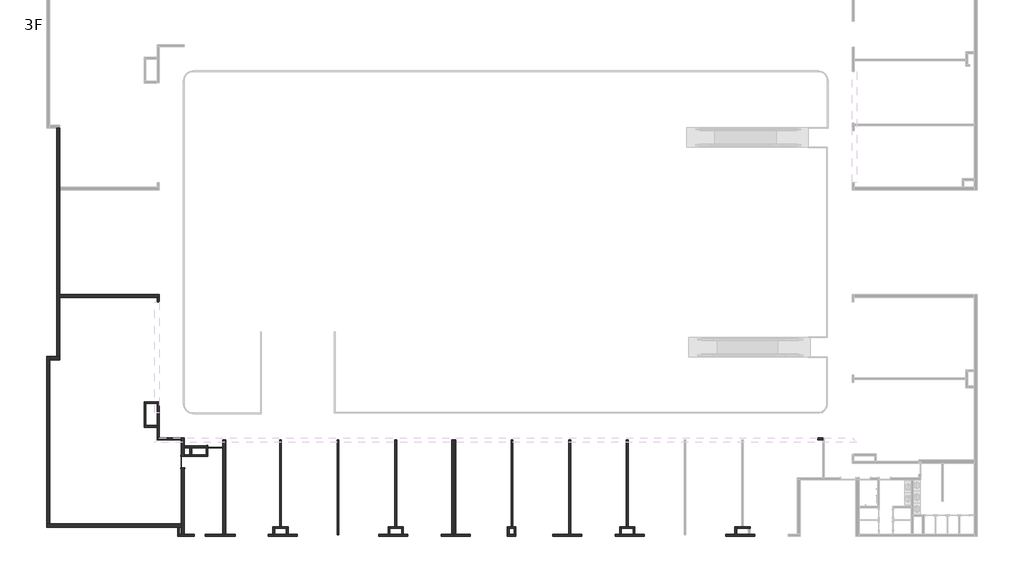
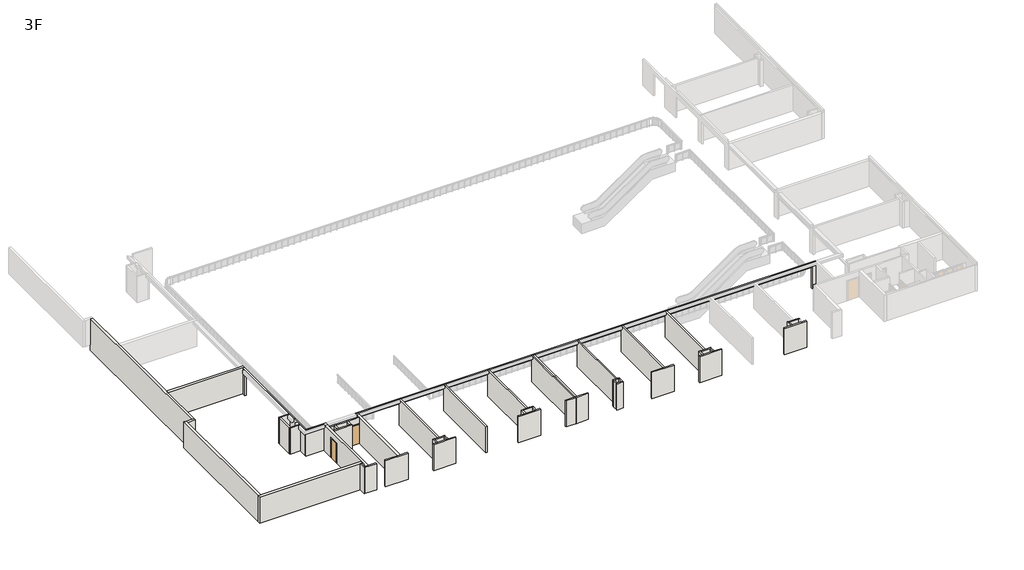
# One storey, part 1 of 4: 50 walls, 2 doors.
"""IFC4 building model written with IfcOpenShell, lengths in millimetres."""

from ifc_helpers import new_model, si_unit, frame, origin, place, context, project, spatial, polyline, outline, extrude, faceted_brep, transform, mapped, element, save
from components import m_single_flush_d_1200x2150_085a39eb, m_single_flush_d_900x2150_0b8f236d

model = new_model("IFC4")

# Units and contexts
model_context = context("Model", 3, world=origin())
ifc_project = project(units=[si_unit("LENGTHUNIT", "METRE", prefix="MILLI")], contexts=[model_context])

# Site, building, storey
site = spatial("IfcSite", under=ifc_project)
building = spatial("IfcBuilding", under=site)
storey = spatial("IfcBuildingStorey", under=building, Name="3F", Elevation=11850.0)

# Doors
placement = place(None, origin())
m_single_flush_d_1200x2150_shape = m_single_flush_d_1200x2150_085a39eb(model_context)
element("IfcDoor", 1, ObjectType="M_Single-Flush : D-1200x2150", at=placement, inside=storey, context=model_context, shape_type="MappedRepresentation", body=[
    mapped(m_single_flush_d_1200x2150_shape, transform((-18037.5865899, -18671.6148653, 11850.0), x_axis=(1.0, 0.0, 0.0), y_axis=(0.0, 1.0, 0.0), z_axis=(0.0, 0.0, 1.0))),
])
m_single_flush_d_900x2150_shape = m_single_flush_d_900x2150_0b8f236d(model_context)
element("IfcDoor", 2, ObjectType="M_Single-Flush : D-900x2150", at=placement, inside=storey, context=model_context, shape_type="MappedRepresentation", body=[
    mapped(m_single_flush_d_900x2150_shape, transform((-20654.0865899, -19892.6148653, 11850.0), x_axis=(0.0, 1.0, 0.0), y_axis=(-1.0, 0.0, 0.0), z_axis=(0.0, 0.0, 1.0))),
])

# Walls
element("IfcWall", 3, ObjectType="wall-115", at=placement, inside=storey, context=model_context, shape_type="Brep", body=[
    faceted_brep([(-22667.5865898, -15057.6310718, 11850.0), (-23747.5865898, -15057.6310718, 11850.0), (-23747.5865898, -15057.6310718, 14725.0), (-22667.5865898, -15057.6310718, 14725.0), (-23747.5865898, -15199.6310718, 11850.0), (-23605.5865898, -15199.6310718, 11850.0), (-22667.5865898, -15199.6310718, 11850.0), (-22667.5865898, -15199.6310718, 14725.0), (-23605.5865898, -15199.6310718, 14725.0), (-23747.5865898, -15199.6310718, 14725.0), (-22667.5865898, -15072.6310718, 11850.0)], [[[0, 1, 2, 3]], [[4, 5, 6, 7, 8, 9]], [[1, 0, 10, 6, 5, 4]], [[1, 4, 9, 2]], [[6, 10, 0, 3, 7]], [[3, 2, 9, 8, 7]]]),
])
element("IfcWall", 4, ObjectType="wall-115", at=placement, inside=storey, context=model_context, shape_type="SweptSolid", body=[
    extrude(outline(polyline([(-23747.5865898, -16972.6148653), (-23747.5865898, -15199.6310718), (-23605.5865898, -15199.6310718), (-23605.5865898, -16972.6148653), (-23747.5865898, -16972.6148653)])), frame((0.0, 0.0, 11850.0), z_axis=(0.0, 0.0, 1.0), x_axis=(1.0, 0.0, 0.0)), (0.0, 0.0, 1.0), 2875.0),
])
element("IfcWall", 5, ObjectType="wall-115", at=placement, inside=storey, context=model_context, shape_type="Brep", body=[
    faceted_brep([(-22667.5865898, -16972.6148653, 11850.0), (-23605.5865898, -16972.6148653, 11850.0), (-23747.5865898, -16972.6148653, 11850.0), (-23747.5865898, -16972.6148653, 14725.0), (-23605.5865898, -16972.6148653, 14725.0), (-22667.5865898, -16972.6148653, 14725.0), (-23747.5865898, -17114.6148653, 11850.0), (-22667.5865898, -17114.6148653, 11850.0), (-22667.5865898, -17114.6148653, 14725.0), (-23747.5865898, -17114.6148653, 14725.0)], [[[0, 1, 2, 3, 4, 5]], [[6, 7, 8, 9]], [[2, 1, 0, 7, 6]], [[2, 6, 9, 3]], [[7, 0, 5, 8]], [[5, 4, 3, 9, 8]]]),
])
element("IfcWall", 6, ObjectType="wall-115", at=placement, inside=storey, context=model_context, shape_type="Brep", body=[
    faceted_brep([(-22667.5865898, -18102.6148653, 11850.0), (-20782.5865899, -18102.6148653, 11850.0), (-20782.5865899, -18102.6148653, 14725.0), (-22667.5865898, -18102.6148653, 14725.0), (-20782.5865899, -17960.6148653, 11850.0), (-22525.5865898, -17960.6148653, 11850.0), (-22667.5865898, -17960.6148653, 11850.0), (-22667.5865898, -17960.6148653, 14725.0), (-22525.5865899, -17960.6148653, 14725.0), (-20782.5865899, -17960.6148653, 14725.0)], [[[0, 1, 2, 3]], [[4, 5, 6, 7, 8, 9]], [[1, 0, 6, 5, 4]], [[6, 0, 3, 7]], [[1, 4, 9, 2]], [[3, 2, 9, 8, 7]]]),
])
element("IfcWall", 7, ObjectType="wall-115", at=placement, inside=storey, context=model_context, shape_type="Brep", body=[
    faceted_brep([(-20909.0865899, -25834.6148653, 11850.0), (-19737.5865899, -25834.6148653, 11850.0), (-19737.5865899, -25834.6148653, 14725.0), (-20909.0865899, -25834.6148653, 14725.0), (-19737.5865899, -25692.6148653, 11850.0), (-20525.5865899, -25692.6148653, 11850.0), (-20782.5865899, -25692.6148653, 11850.0), (-20909.0865899, -25692.6148653, 11850.0), (-20909.0865899, -25692.6148653, 14725.0), (-20782.5865899, -25692.6148653, 14725.0), (-20525.5865899, -25692.6148653, 14725.0), (-19737.5865899, -25692.6148653, 14725.0)], [[[0, 1, 2, 3]], [[4, 5, 6, 7, 8, 9, 10, 11]], [[1, 0, 7, 6, 5, 4]], [[1, 4, 11, 2]], [[7, 0, 3, 8]], [[3, 2, 11, 10, 9, 8]]]),
])
element("IfcWall", 8, ObjectType="wall-115", at=placement, inside=storey, context=model_context, shape_type="Brep", body=[
    faceted_brep([(-4937.5865899, -25834.6148653, 11850.0), (-2617.5865899, -25834.6148653, 11850.0), (-2617.5865899, -25834.6148653, 14725.0), (-4937.5865899, -25834.6148653, 14725.0), (-2617.5865899, -25692.6148653, 11850.0), (-2977.5865899, -25692.6148653, 11850.0), (-3119.5865899, -25692.6148653, 11850.0), (-4065.5865899, -25692.6148653, 11850.0), (-4207.5865899, -25692.6148653, 11850.0), (-4937.5865899, -25692.6148653, 11850.0), (-4937.5865899, -25692.6148653, 14725.0), (-4207.5865899, -25692.6148653, 14725.0), (-4065.5865899, -25692.6148653, 14725.0), (-3119.5865899, -25692.6148653, 14725.0), (-2977.5865899, -25692.6148653, 14725.0), (-2617.5865899, -25692.6148653, 14725.0)], [[[0, 1, 2, 3]], [[4, 5, 6, 7, 8, 9, 10, 11, 12, 13, 14, 15]], [[1, 0, 9, 8, 7, 6, 5, 4]], [[1, 4, 15, 2]], [[9, 0, 3, 10]], [[3, 2, 15, 14, 13, 12, 11, 10]]]),
])
element("IfcWall", 9, ObjectType="wall-115", at=placement, inside=storey, context=model_context, shape_type="Brep", body=[
    faceted_brep([(13967.4134101, -25834.6148653, 11850.0), (16287.4134101, -25834.6148653, 11850.0), (16287.4134101, -25834.6148653, 14725.0), (13967.4134101, -25834.6148653, 14725.0), (16287.4134101, -25692.6148653, 11850.0), (15557.4134101, -25692.6148653, 11850.0), (15415.4134101, -25692.6148653, 11850.0), (14469.4134101, -25692.6148653, 11850.0), (14327.4134101, -25692.6148653, 11850.0), (13967.4134101, -25692.6148653, 11850.0), (13967.4134101, -25692.6148653, 14725.0), (14327.4134101, -25692.6148653, 14725.0), (14469.4134101, -25692.6148653, 14725.0), (15415.4134101, -25692.6148653, 14725.0), (15557.4134101, -25692.6148653, 14725.0), (16287.4134101, -25692.6148653, 14725.0)], [[[0, 1, 2, 3]], [[4, 5, 6, 7, 8, 9, 10, 11, 12, 13, 14, 15]], [[1, 0, 9, 8, 7, 6, 5, 4]], [[1, 4, 15, 2]], [[9, 0, 3, 10]], [[3, 2, 15, 14, 13, 12, 11, 10]]]),
])
element("IfcWall", 10, ObjectType="wall-115", at=placement, inside=storey, context=model_context, shape_type="Brep", body=[
    faceted_brep([(22827.4134101, -25834.6148653, 11850.0), (25147.4134101, -25834.6148653, 11850.0), (25147.4134101, -25834.6148653, 14725.0), (22827.4134101, -25834.6148653, 14725.0), (25147.4134101, -25692.6148653, 11850.0), (24787.4134101, -25692.6148653, 11850.0), (24645.4134101, -25692.6148653, 11850.0), (23699.4134101, -25692.6148653, 11850.0), (23557.4134101, -25692.6148653, 11850.0), (22827.4134101, -25692.6148653, 11850.0), (22827.4134101, -25692.6148653, 14725.0), (23557.4134101, -25692.6148653, 14725.0), (23699.4134101, -25692.6148653, 14725.0), (24645.4134101, -25692.6148653, 14725.0), (24787.4134101, -25692.6148653, 14725.0), (25147.4134101, -25692.6148653, 14725.0)], [[[0, 1, 2, 3]], [[4, 5, 6, 7, 8, 9, 10, 11, 12, 13, 14, 15]], [[1, 0, 9, 8, 7, 6, 5, 4]], [[1, 4, 15, 2]], [[9, 0, 3, 10]], [[3, 2, 15, 14, 13, 12, 11, 10]]]),
])
element("IfcWall", 11, ObjectType="wall-115", at=placement, inside=storey, context=model_context, shape_type="Brep", body=[
    faceted_brep([(-13797.5865899, -25834.6148653, 11850.0), (-11477.5865899, -25834.6148653, 11850.0), (-11477.5865899, -25834.6148653, 14725.0), (-13797.5865899, -25834.6148653, 14725.0), (-11477.5865899, -25692.6148653, 11850.0), (-12207.5865899, -25692.6148653, 11850.0), (-12349.5865899, -25692.6148653, 11850.0), (-13295.5865899, -25692.6148653, 11850.0), (-13437.5865899, -25692.6148653, 11850.0), (-13797.5865899, -25692.6148653, 11850.0), (-13797.5865899, -25692.6148653, 14725.0), (-13437.5865899, -25692.6148653, 14725.0), (-13295.5865899, -25692.6148653, 14725.0), (-12349.5865899, -25692.6148653, 14725.0), (-12207.5865899, -25692.6148653, 14725.0), (-11477.5865899, -25692.6148653, 14725.0)], [[[0, 1, 2, 3]], [[4, 5, 6, 7, 8, 9, 10, 11, 12, 13, 14, 15]], [[1, 0, 9, 8, 7, 6, 5, 4]], [[1, 4, 15, 2]], [[9, 0, 3, 10]], [[3, 2, 15, 14, 13, 12, 11, 10]]]),
])
element("IfcWall", 12, ObjectType="wall-115", at=placement, inside=storey, context=model_context, shape_type="Brep", body=[
    faceted_brep([(47.4134101, -25834.6148653, 11850.0), (1034.4134101, -25834.6148653, 11850.0), (1034.4134101, -25834.6148653, 14725.0), (47.4134101, -25834.6148653, 14725.0), (1034.4134101, -25692.6148653, 11850.0), (892.4134101, -25692.6148653, 11850.0), (47.4134101, -25692.6148653, 11850.0), (47.4134101, -25692.6148653, 14725.0), (892.4134101, -25692.6148653, 14725.0), (1034.4134101, -25692.6148653, 14725.0)], [[[0, 1, 2, 3]], [[4, 5, 6, 7, 8, 9]], [[1, 0, 6, 5, 4]], [[6, 0, 3, 7]], [[1, 4, 9, 2]], [[3, 2, 9, 8, 7]]]),
])
element("IfcWall", 13, ObjectType="wall-115", at=placement, inside=storey, context=model_context, shape_type="Brep", body=[
    faceted_brep([(2367.4134101, -25692.6148653, 11850.0), (1224.4134101, -25692.6148653, 11850.0), (1082.4134101, -25692.6148653, 11850.0), (1082.4134101, -25692.6148653, 14725.0), (1224.4134101, -25692.6148653, 14725.0), (2367.4134101, -25692.6148653, 14725.0), (1082.4134101, -25834.6148653, 11850.0), (2367.4134101, -25834.6148653, 11850.0), (2367.4134101, -25834.6148653, 14725.0), (1082.4134101, -25834.6148653, 14725.0)], [[[0, 1, 2, 3, 4, 5]], [[6, 7, 8, 9]], [[2, 1, 0, 7, 6]], [[7, 0, 5, 8]], [[2, 6, 9, 3]], [[5, 4, 3, 9, 8]]]),
])
element("IfcWall", 14, ObjectType="wall-115", at=placement, inside=storey, context=model_context, shape_type="Brep", body=[
    faceted_brep([(11302.4134101, -25692.6148653, 11850.0), (10396.9134101, -25692.6148653, 11850.0), (10254.9134101, -25692.6148653, 11850.0), (8982.4134101, -25692.6148653, 11850.0), (8982.4134101, -25692.6148653, 14725.0), (10254.9134101, -25692.6148653, 14725.0), (10396.9134101, -25692.6148653, 14725.0), (11302.4134101, -25692.6148653, 14725.0), (8982.4134101, -25834.6148653, 11850.0), (11302.4134101, -25834.6148653, 11850.0), (11302.4134101, -25834.6148653, 14725.0), (8982.4134101, -25834.6148653, 14725.0)], [[[0, 1, 2, 3, 4, 5, 6, 7]], [[8, 9, 10, 11]], [[3, 2, 1, 0, 9, 8]], [[3, 8, 11, 4]], [[9, 0, 7, 10]], [[7, 6, 5, 4, 11, 10]]]),
])
element("IfcWall", 15, ObjectType="wall-115", at=placement, inside=storey, context=model_context, shape_type="Brep", body=[
    faceted_brep([(-18837.5865899, -25834.6148653, 11850.0), (-16462.5865899, -25834.6148653, 11850.0), (-16462.5865899, -25834.6148653, 14725.0), (-18837.5865899, -25834.6148653, 14725.0), (-16462.5865899, -25692.6148653, 11850.0), (-17192.5865899, -25692.6148653, 11850.0), (-17449.5865899, -25692.6148653, 11850.0), (-18837.5865899, -25692.6148653, 11850.0), (-18837.5865899, -25692.6148653, 14725.0), (-17449.5865899, -25692.6148653, 14725.0), (-17192.5865899, -25692.6148653, 14725.0), (-16462.5865899, -25692.6148653, 14725.0)], [[[0, 1, 2, 3]], [[4, 5, 6, 7, 8, 9, 10, 11]], [[1, 0, 7, 6, 5, 4]], [[1, 4, 11, 2]], [[7, 0, 3, 8]], [[3, 2, 11, 10, 9, 8]]]),
])
element("IfcWall", 16, ObjectType="wall-115", at=placement, inside=storey, context=model_context, shape_type="Brep", body=[
    faceted_brep([(-20909.0865899, -25834.6148653, 11850.0), (-20909.0865899, -25692.6148653, 11850.0), (-20909.0865899, -25109.6148653, 11850.0), (-20909.0865899, -25109.6148653, 14725.0), (-20909.0865899, -25692.6148653, 14725.0), (-20909.0865899, -25834.6148653, 14725.0), (-21051.0865899, -25109.6148653, 11850.0), (-21051.0865899, -25834.6148653, 11850.0), (-21051.0865899, -25834.6148653, 14725.0), (-21051.0865899, -25109.6148653, 14725.0)], [[[0, 1, 2, 3, 4, 5]], [[6, 7, 8, 9]], [[2, 1, 0, 7, 6]], [[7, 0, 5, 8]], [[2, 6, 9, 3]], [[5, 4, 3, 9, 8]]]),
])
element("IfcWall", 17, ObjectType="wall-115", at=placement, inside=storey, context=model_context, shape_type="Brep", body=[
    faceted_brep([(5334.9134101, -25834.6148653, 11850.0), (6014.9134101, -25834.6148653, 11850.0), (6014.9134101, -25834.6148653, 14725.0), (5334.9134101, -25834.6148653, 14725.0), (6014.9134101, -25692.6148653, 11850.0), (5872.9134101, -25692.6148653, 11850.0), (5476.9134101, -25692.6148653, 11850.0), (5334.9134101, -25692.6148653, 11850.0), (5334.9134101, -25692.6148653, 14725.0), (5476.9134101, -25692.6148653, 14725.0), (5872.9134101, -25692.6148653, 14725.0), (6014.9134101, -25692.6148653, 14725.0)], [[[0, 1, 2, 3]], [[4, 5, 6, 7, 8, 9, 10, 11]], [[1, 0, 7, 6, 5, 4]], [[7, 0, 3, 8]], [[1, 4, 11, 2]], [[3, 2, 11, 10, 9, 8]]]),
])
element("IfcWall", 18, ObjectType="wall-115", at=placement, inside=storey, context=model_context, shape_type="Brep", body=[
    faceted_brep([(14469.4134101, -25692.6148653, 11850.0), (14469.4134101, -25204.6148653, 11850.0), (14469.4134101, -25062.6148653, 11850.0), (14469.4134101, -25062.6148653, 14725.0), (14469.4134101, -25204.6148653, 14725.0), (14469.4134101, -25692.6148653, 14725.0), (14327.4134101, -25062.6148653, 11850.0), (14327.4134101, -25692.6148653, 11850.0), (14327.4134101, -25692.6148653, 14725.0), (14327.4134101, -25062.6148653, 14725.0)], [[[0, 1, 2, 3, 4, 5]], [[6, 7, 8, 9]], [[2, 1, 0, 7, 6]], [[2, 6, 9, 3]], [[7, 0, 5, 8]], [[5, 4, 3, 9, 8]]]),
])
element("IfcWall", 19, ObjectType="wall-115", at=placement, inside=storey, context=model_context, shape_type="Brep", body=[
    faceted_brep([(14469.4134101, -25204.6148653, 11850.0), (15415.4134101, -25204.6148653, 11850.0), (15557.4134101, -25204.6148653, 11850.0), (15557.4134101, -25204.6148653, 14725.0), (15415.4134101, -25204.6148653, 14725.0), (14469.4134101, -25204.6148653, 14725.0), (15557.4134101, -25062.6148653, 11850.0), (15011.9134101, -25062.6148653, 11850.0), (14869.9134101, -25062.6148653, 11850.0), (14469.4134101, -25062.6148653, 11850.0), (14469.4134101, -25062.6148653, 14725.0), (14869.9134101, -25062.6148653, 14725.0), (15011.9134101, -25062.6148653, 14725.0), (15557.4134101, -25062.6148653, 14725.0)], [[[0, 1, 2, 3, 4, 5]], [[6, 7, 8, 9, 10, 11, 12, 13]], [[2, 1, 0, 9, 8, 7, 6]], [[2, 6, 13, 3]], [[9, 0, 5, 10]], [[5, 4, 3, 13, 12, 11, 10]]]),
])
element("IfcWall", 20, ObjectType="wall-115", at=placement, inside=storey, context=model_context, shape_type="SweptSolid", body=[
    extrude(outline(polyline([(15415.4134101, -25692.6148653), (15415.4134101, -25204.6148653), (15557.4134101, -25204.6148653), (15557.4134101, -25692.6148653), (15415.4134101, -25692.6148653)])), frame((0.0, 0.0, 11850.0), z_axis=(0.0, 0.0, 1.0), x_axis=(1.0, 0.0, 0.0)), (0.0, 0.0, 1.0), 2875.0),
])
element("IfcWall", 21, ObjectType="wall-115", at=placement, inside=storey, context=model_context, shape_type="SweptSolid", body=[
    extrude(outline(polyline([(15011.9134101, -18102.6148653), (15011.9134101, -25062.6148653), (14869.9134101, -25062.6148653), (14869.9134101, -18102.6148653), (15011.9134101, -18102.6148653)])), frame((0.0, 0.0, 11850.0), z_axis=(0.0, 0.0, 1.0), x_axis=(1.0, 0.0, 0.0)), (0.0, 0.0, 1.0), 2875.0),
])
element("IfcWall", 22, ObjectType="wall-115", at=placement, inside=storey, context=model_context, shape_type="SweptSolid", body=[
    extrude(outline(polyline([(10396.9134101, -18102.6148653), (10396.9134101, -25692.6148653), (10254.9134101, -25692.6148653), (10254.9134101, -18102.6148653), (10396.9134101, -18102.6148653)])), frame((0.0, 0.0, 11850.0), z_axis=(0.0, 0.0, 1.0), x_axis=(1.0, 0.0, 0.0)), (0.0, 0.0, 1.0), 2875.0),
])
element("IfcWall", 23, ObjectType="wall-115", at=placement, inside=storey, context=model_context, shape_type="SweptSolid", body=[
    extrude(outline(polyline([(5781.9134101, -18102.6148653), (5781.9134101, -25062.6148653), (5639.9134101, -25062.6148653), (5639.9134101, -18102.6148653), (5781.9134101, -18102.6148653)])), frame((0.0, 0.0, 11850.0), z_axis=(0.0, 0.0, 1.0), x_axis=(1.0, 0.0, 0.0)), (0.0, 0.0, 1.0), 2875.0),
])
element("IfcWall", 24, ObjectType="wall-115", at=placement, inside=storey, context=model_context, shape_type="SweptSolid", body=[
    extrude(outline(polyline([(1034.4134101, -18102.6148653), (1034.4134101, -25692.6148653), (892.4134101, -25692.6148653), (892.4134101, -18102.6148653), (1034.4134101, -18102.6148653)])), frame((0.0, 0.0, 11850.0), z_axis=(0.0, 0.0, 1.0), x_axis=(1.0, 0.0, 0.0)), (0.0, 0.0, 1.0), 2875.0),
])
element("IfcWall", 25, ObjectType="wall-115", at=placement, inside=storey, context=model_context, shape_type="Brep", body=[
    faceted_brep([(-4065.5865899, -25692.6148653, 11850.0), (-4065.5865899, -25204.6148653, 11850.0), (-4065.5865899, -25062.6148653, 11850.0), (-4065.5865899, -25062.6148653, 14725.0), (-4065.5865899, -25204.6148653, 14725.0), (-4065.5865899, -25692.6148653, 14725.0), (-4207.5865899, -25062.6148653, 11850.0), (-4207.5865899, -25692.6148653, 11850.0), (-4207.5865899, -25692.6148653, 14725.0), (-4207.5865899, -25062.6148653, 14725.0)], [[[0, 1, 2, 3, 4, 5]], [[6, 7, 8, 9]], [[2, 1, 0, 7, 6]], [[2, 6, 9, 3]], [[7, 0, 5, 8]], [[5, 4, 3, 9, 8]]]),
])
element("IfcWall", 26, ObjectType="wall-115", at=placement, inside=storey, context=model_context, shape_type="Brep", body=[
    faceted_brep([(-4065.5865899, -25204.6148653, 11850.0), (-3119.5865899, -25204.6148653, 11850.0), (-2977.5865899, -25204.6148653, 11850.0), (-2977.5865899, -25204.6148653, 14725.0), (-3119.5865899, -25204.6148653, 14725.0), (-4065.5865899, -25204.6148653, 14725.0), (-2977.5865899, -25062.6148653, 11850.0), (-3523.0865899, -25062.6148653, 11850.0), (-3665.0865899, -25062.6148653, 11850.0), (-4065.5865899, -25062.6148653, 11850.0), (-4065.5865899, -25062.6148653, 14725.0), (-3665.0865899, -25062.6148653, 14725.0), (-3523.0865899, -25062.6148653, 14725.0), (-2977.5865899, -25062.6148653, 14725.0)], [[[0, 1, 2, 3, 4, 5]], [[6, 7, 8, 9, 10, 11, 12, 13]], [[2, 1, 0, 9, 8, 7, 6]], [[9, 0, 5, 10]], [[2, 6, 13, 3]], [[5, 4, 3, 13, 12, 11, 10]]]),
])
element("IfcWall", 27, ObjectType="wall-115", at=placement, inside=storey, context=model_context, shape_type="SweptSolid", body=[
    extrude(outline(polyline([(-3119.5865899, -25692.6148653), (-3119.5865899, -25204.6148653), (-2977.5865899, -25204.6148653), (-2977.5865899, -25692.6148653), (-3119.5865899, -25692.6148653)])), frame((0.0, 0.0, 11850.0), z_axis=(0.0, 0.0, 1.0), x_axis=(1.0, 0.0, 0.0)), (0.0, 0.0, 1.0), 2875.0),
])
element("IfcWall", 28, ObjectType="wall-115", at=placement, inside=storey, context=model_context, shape_type="SweptSolid", body=[
    extrude(outline(polyline([(-3523.0865899, -18102.6148653), (-3523.0865899, -25062.6148653), (-3665.0865899, -25062.6148653), (-3665.0865899, -18102.6148653), (-3523.0865899, -18102.6148653)])), frame((0.0, 0.0, 11850.0), z_axis=(0.0, 0.0, 1.0), x_axis=(1.0, 0.0, 0.0)), (0.0, 0.0, 1.0), 2875.0),
])
element("IfcWall", 29, ObjectType="wall-115", at=placement, inside=storey, context=model_context, shape_type="SweptSolid", body=[
    extrude(outline(polyline([(-8138.0865899, -18102.6148653), (-8138.0865899, -25707.6148653), (-8280.0865899, -25707.6148653), (-8280.0865899, -18102.6148653), (-8138.0865899, -18102.6148653)])), frame((0.0, 0.0, 11850.0), z_axis=(0.0, 0.0, 1.0), x_axis=(1.0, 0.0, 0.0)), (0.0, 0.0, 1.0), 2875.0),
])
element("IfcWall", 30, ObjectType="wall-115", at=placement, inside=storey, context=model_context, shape_type="SweptSolid", body=[
    extrude(outline(polyline([(-12753.0865899, -18102.6148653), (-12753.0865899, -25062.6148653), (-12895.0865899, -25062.6148653), (-12895.0865899, -18102.6148653), (-12753.0865899, -18102.6148653)])), frame((0.0, 0.0, 11850.0), z_axis=(0.0, 0.0, 1.0), x_axis=(1.0, 0.0, 0.0)), (0.0, 0.0, 1.0), 2875.0),
])
element("IfcWall", 31, ObjectType="wall-115", at=placement, inside=storey, context=model_context, shape_type="Brep", body=[
    faceted_brep([(23699.4134101, -25692.6148653, 11850.0), (23699.4134101, -25204.6148653, 11850.0), (23699.4134101, -25062.6148653, 11850.0), (23699.4134101, -25062.6148653, 14725.0), (23699.4134101, -25204.6148653, 14725.0), (23699.4134101, -25692.6148653, 14725.0), (23557.4134101, -25062.6148653, 11850.0), (23557.4134101, -25692.6148653, 11850.0), (23557.4134101, -25692.6148653, 14725.0), (23557.4134101, -25062.6148653, 14725.0)], [[[0, 1, 2, 3, 4, 5]], [[6, 7, 8, 9]], [[2, 1, 0, 7, 6]], [[2, 6, 9, 3]], [[7, 0, 5, 8]], [[5, 4, 3, 9, 8]]]),
])
element("IfcWall", 32, ObjectType="wall-115", at=placement, inside=storey, context=model_context, shape_type="Brep", body=[
    faceted_brep([(23699.4134101, -25204.6148653, 11850.0), (24645.4134101, -25204.6148653, 11850.0), (24787.4134101, -25204.6148653, 11850.0), (24787.4134101, -25204.6148653, 14725.0), (24645.4134101, -25204.6148653, 14725.0), (23699.4134101, -25204.6148653, 14725.0), (24787.4134101, -25062.6148653, 11850.0), (24241.9134101, -25062.6148653, 11850.0), (24099.9134101, -25062.6148653, 11850.0), (23699.4134101, -25062.6148653, 11850.0), (23699.4134101, -25062.6148653, 14725.0), (24099.9134101, -25062.6148653, 14725.0), (24241.9134101, -25062.6148653, 14725.0), (24787.4134101, -25062.6148653, 14725.0)], [[[0, 1, 2, 3, 4, 5]], [[6, 7, 8, 9, 10, 11, 12, 13]], [[2, 1, 0, 9, 8, 7, 6]], [[2, 6, 13, 3]], [[9, 0, 5, 10]], [[5, 4, 3, 13, 12, 11, 10]]]),
])
element("IfcWall", 33, ObjectType="wall-115", at=placement, inside=storey, context=model_context, shape_type="Brep", body=[
    faceted_brep([(5334.9134101, -25204.6148653, 11850.0), (5476.9134101, -25204.6148653, 11850.0), (5872.9134101, -25204.6148653, 11850.0), (6014.9134101, -25204.6148653, 11850.0), (6014.9134101, -25204.6148653, 14725.0), (5872.9134101, -25204.6148653, 14725.0), (5476.9134101, -25204.6148653, 14725.0), (5334.9134101, -25204.6148653, 14725.0), (6014.9134101, -25062.6148653, 11850.0), (5781.9134101, -25062.6148653, 11850.0), (5639.9134101, -25062.6148653, 11850.0), (5334.9134101, -25062.6148653, 11850.0), (5334.9134101, -25062.6148653, 14725.0), (5639.9134101, -25062.6148653, 14725.0), (5781.9134101, -25062.6148653, 14725.0), (6014.9134101, -25062.6148653, 14725.0)], [[[0, 1, 2, 3, 4, 5, 6, 7]], [[8, 9, 10, 11, 12, 13, 14, 15]], [[3, 2, 1, 0, 11, 10, 9, 8]], [[11, 0, 7, 12]], [[3, 8, 15, 4]], [[7, 6, 5, 4, 15, 14, 13, 12]]]),
])
element("IfcWall", 34, ObjectType="wall-115", at=placement, inside=storey, context=model_context, shape_type="Brep", body=[
    faceted_brep([(-13295.5865899, -25692.6148653, 11850.0), (-13295.5865899, -25204.6148653, 11850.0), (-13295.5865899, -25062.6148653, 11850.0), (-13295.5865899, -25062.6148653, 14725.0), (-13295.5865899, -25204.6148653, 14725.0), (-13295.5865899, -25692.6148653, 14725.0), (-13437.5865899, -25062.6148653, 11850.0), (-13437.5865899, -25692.6148653, 11850.0), (-13437.5865899, -25692.6148653, 14725.0), (-13437.5865899, -25062.6148653, 14725.0)], [[[0, 1, 2, 3, 4, 5]], [[6, 7, 8, 9]], [[2, 1, 0, 7, 6]], [[2, 6, 9, 3]], [[7, 0, 5, 8]], [[5, 4, 3, 9, 8]]]),
])
element("IfcWall", 35, ObjectType="wall-115", at=placement, inside=storey, context=model_context, shape_type="Brep", body=[
    faceted_brep([(-13295.5865899, -25204.6148653, 11850.0), (-12349.5865899, -25204.6148653, 11850.0), (-12207.5865899, -25204.6148653, 11850.0), (-12207.5865899, -25204.6148653, 14725.0), (-12349.5865899, -25204.6148653, 14725.0), (-13295.5865899, -25204.6148653, 14725.0), (-12207.5865899, -25062.6148653, 11850.0), (-12753.0865899, -25062.6148653, 11850.0), (-12895.0865899, -25062.6148653, 11850.0), (-13295.5865899, -25062.6148653, 11850.0), (-13295.5865899, -25062.6148653, 14725.0), (-12895.0865899, -25062.6148653, 14725.0), (-12753.0865899, -25062.6148653, 14725.0), (-12207.5865899, -25062.6148653, 14725.0)], [[[0, 1, 2, 3, 4, 5]], [[6, 7, 8, 9, 10, 11, 12, 13]], [[2, 1, 0, 9, 8, 7, 6]], [[9, 0, 5, 10]], [[2, 6, 13, 3]], [[5, 4, 3, 13, 12, 11, 10]]]),
])
element("IfcWall", 36, ObjectType="wall-115", at=placement, inside=storey, context=model_context, shape_type="SweptSolid", body=[
    extrude(outline(polyline([(-12349.5865899, -25692.6148653), (-12349.5865899, -25204.6148653), (-12207.5865899, -25204.6148653), (-12207.5865899, -25692.6148653), (-12349.5865899, -25692.6148653)])), frame((0.0, 0.0, 11850.0), z_axis=(0.0, 0.0, 1.0), x_axis=(1.0, 0.0, 0.0)), (0.0, 0.0, 1.0), 2875.0),
])
element("IfcWall", 37, ObjectType="wall-115", at=placement, inside=storey, context=model_context, shape_type="SweptSolid", body=[
    extrude(outline(polyline([(1224.4134101, -18102.6148653), (1224.4134101, -25692.6148653), (1082.4134101, -25692.6148653), (1082.4134101, -18102.6148653), (1224.4134101, -18102.6148653)])), frame((0.0, 0.0, 11850.0), z_axis=(0.0, 0.0, 1.0), x_axis=(1.0, 0.0, 0.0)), (0.0, 0.0, 1.0), 2875.0),
])
element("IfcWall", 38, ObjectType="wall-115", at=placement, inside=storey, context=model_context, shape_type="Brep", body=[
    faceted_brep([(30187.4134101, -18102.6148653, 11850.0), (30582.4134101, -18102.6148653, 11850.0), (30582.4134101, -18102.6148653, 14725.0), (24241.9134101, -18102.6148653, 14725.0), (24099.9134101, -18102.6148653, 14725.0), (19626.9134101, -18102.6148653, 14725.0), (19484.9134101, -18102.6148653, 14725.0), (15011.9134101, -18102.6148653, 14725.0), (14869.9134101, -18102.6148653, 14725.0), (10396.9134101, -18102.6148653, 14725.0), (10254.9134101, -18102.6148653, 14725.0), (5781.9134101, -18102.6148653, 14725.0), (5639.9134101, -18102.6148653, 14725.0), (1224.4134101, -18102.6148653, 14725.0), (1082.4134101, -18102.6148653, 14725.0), (1034.4134101, -18102.6148653, 14725.0), (892.4134101, -18102.6148653, 14725.0), (-3523.0865899, -18102.6148653, 14725.0), (-3665.0865899, -18102.6148653, 14725.0), (-8138.0865899, -18102.6148653, 14725.0), (-8280.0865899, -18102.6148653, 14725.0), (-12753.0865899, -18102.6148653, 14725.0), (-12895.0865899, -18102.6148653, 14725.0), (-17192.5865899, -18102.6148653, 14725.0), (-17449.5865899, -18102.6148653, 14725.0), (-17449.5865899, -18102.6148653, 14250.0), (30187.4134101, -18102.6148653, 14250.0), (30582.4134101, -17960.6148653, 11850.0), (30187.4134101, -17960.6148653, 11850.0), (30187.4134101, -17960.6148653, 14250.0), (-17449.5865899, -17960.6148653, 14250.0), (-17449.5865899, -17960.6148653, 14725.0), (30582.4134101, -17960.6148653, 14725.0)], [[[0, 1, 2, 3, 4, 5, 6, 7, 8, 9, 10, 11, 12, 13, 14, 15, 16, 17, 18, 19, 20, 21, 22, 23, 24, 25, 26]], [[27, 28, 29, 30, 31, 32]], [[27, 1, 0, 28]], [[30, 25, 24, 31]], [[1, 27, 32, 2]], [[25, 30, 29, 26]], [[26, 29, 28, 0]], [[24, 23, 22, 21, 20, 19, 18, 17, 16, 15, 14, 13, 12, 11, 10, 9, 8, 7, 6, 5, 4, 3, 2, 32, 31]]]),
])
element("IfcWall", 39, ObjectType="wall-115", at=placement, inside=storey, context=model_context, shape_type="SweptSolid", body=[
    extrude(outline(polyline([(5476.9134101, -25204.6148653), (5476.9134101, -25692.6148653), (5334.9134101, -25692.6148653), (5334.9134101, -25204.6148653), (5476.9134101, -25204.6148653)])), frame((0.0, 0.0, 11850.0), z_axis=(0.0, 0.0, 1.0), x_axis=(1.0, 0.0, 0.0)), (0.0, 0.0, 1.0), 2875.0),
])
element("IfcWall", 40, ObjectType="wall-115", at=placement, inside=storey, context=model_context, shape_type="SweptSolid", body=[
    extrude(outline(polyline([(5872.9134101, -25692.6148653), (5872.9134101, -25204.6148653), (6014.9134101, -25204.6148653), (6014.9134101, -25692.6148653), (5872.9134101, -25692.6148653)])), frame((0.0, 0.0, 11850.0), z_axis=(0.0, 0.0, 1.0), x_axis=(1.0, 0.0, 0.0)), (0.0, 0.0, 1.0), 2875.0),
])
element("IfcWall", 41, ObjectType="wall-115", at=placement, inside=storey, context=model_context, shape_type="Brep", body=[
    faceted_brep([(-18625.5865899, -19312.6148653, 11850.0), (-18767.5865899, -19312.6148653, 11850.0), (-19937.5865899, -19312.6148653, 11850.0), (-20079.5865899, -19312.6148653, 11850.0), (-20525.5865899, -19312.6148653, 11850.0), (-20525.5865899, -19312.6148653, 14725.0), (-20079.5865899, -19312.6148653, 14725.0), (-19937.5865899, -19312.6148653, 14725.0), (-18767.5865899, -19312.6148653, 14725.0), (-18625.5865899, -19312.6148653, 14725.0), (-20525.5865899, -19454.6148653, 11850.0), (-18625.5865899, -19454.6148653, 11850.0), (-18625.5865899, -19454.6148653, 14725.0), (-20525.5865899, -19454.6148653, 14725.0), (-20525.5865899, -19442.6148653, 11850.0)], [[[0, 1, 2, 3, 4, 5, 6, 7, 8, 9]], [[10, 11, 12, 13]], [[4, 3, 2, 1, 0, 11, 10, 14]], [[11, 0, 9, 12]], [[4, 14, 10, 13, 5]], [[9, 8, 7, 6, 5, 13, 12]]]),
])
element("IfcWall", 42, ObjectType="wall-115", at=placement, inside=storey, context=model_context, shape_type="Brep", body=[
    faceted_brep([(-18625.5865899, -19312.6148653, 11850.0), (-18625.5865899, -18742.6148653, 11850.0), (-18625.5865899, -18742.6148653, 14725.0), (-18625.5865899, -19312.6148653, 14725.0), (-18767.5865899, -18742.6148653, 11850.0), (-18767.5865899, -19312.6148653, 11850.0), (-18767.5865899, -19312.6148653, 14725.0), (-18767.5865899, -18742.6148653, 14725.0), (-18637.5865899, -18742.6148653, 11850.0)], [[[0, 1, 2, 3]], [[4, 5, 6, 7]], [[1, 0, 5, 4, 8]], [[1, 8, 4, 7, 2]], [[5, 0, 3, 6]], [[3, 2, 7, 6]]]),
])
element("IfcWall", 43, ObjectType="wall-115", at=placement, inside=storey, context=model_context, shape_type="Brep", body=[
    faceted_brep([(-18637.5865899, -18600.6148653, 11850.0), (-20525.5865899, -18600.6148653, 11850.0), (-20525.5865899, -18600.6148653, 14725.0), (-17449.5865899, -18600.6148653, 14725.0), (-17449.5865899, -18600.6148653, 14000.0), (-18637.5865899, -18600.6148653, 14000.0), (-20525.5865899, -18742.6148653, 11850.0), (-20079.5865899, -18742.6148653, 11850.0), (-19937.5865899, -18742.6148653, 11850.0), (-18767.5865899, -18742.6148653, 11850.0), (-18637.5865899, -18742.6148653, 11850.0), (-18637.5865899, -18742.6148653, 14000.0), (-17449.5865899, -18742.6148653, 14000.0), (-17449.5865899, -18742.6148653, 14725.0), (-18625.5865899, -18742.6148653, 14725.0), (-18767.5865899, -18742.6148653, 14725.0), (-19937.5865899, -18742.6148653, 14725.0), (-20079.5865899, -18742.6148653, 14725.0), (-20525.5865899, -18742.6148653, 14725.0)], [[[0, 1, 2, 3, 4, 5]], [[6, 7, 8, 9, 10, 11, 12, 13, 14, 15, 16, 17, 18]], [[6, 1, 0, 10, 9, 8, 7]], [[12, 4, 3, 13]], [[1, 6, 18, 2]], [[11, 5, 4, 12]], [[5, 11, 10, 0]], [[3, 2, 18, 17, 16, 15, 14, 13]]]),
])
element("IfcWall", 44, ObjectType="wall-115", at=placement, inside=storey, context=model_context, shape_type="SweptSolid", body=[
    extrude(outline(polyline([(-20079.5865899, -19312.6148653), (-20079.5865899, -18742.6148653), (-19937.5865899, -18742.6148653), (-19937.5865899, -19312.6148653), (-20079.5865899, -19312.6148653)])), frame((0.0, 0.0, 11850.0), z_axis=(0.0, 0.0, 1.0), x_axis=(1.0, 0.0, 0.0)), (0.0, 0.0, 1.0), 2875.0),
])
element("IfcWall", 45, ObjectType="wall-115", at=placement, inside=storey, context=model_context, shape_type="Brep", body=[
    faceted_brep([(-22667.5865898, -7072.6310718, 14250.0), (-22667.5865898, -15072.6310718, 14250.0), (-22667.5865898, -15072.6310718, 11850.0), (-22667.5865898, -15199.6310718, 11850.0), (-22667.5865898, -16972.6148653, 11850.0), (-22667.5865898, -17114.6148653, 11850.0), (-22667.5865898, -17960.6148653, 11850.0), (-22667.5865898, -17960.6148653, 14725.0), (-22667.5865898, -17114.6148653, 14725.0), (-22667.5865898, -16972.6148653, 14725.0), (-22667.5865898, -15199.6310718, 14725.0), (-22667.5865898, -15057.6310718, 14725.0), (-22667.5865898, -6717.6148653, 14725.0), (-22667.5865898, -6717.6148653, 11850.0), (-22667.5865898, -7072.6310718, 11850.0), (-22525.5865898, -15072.6310718, 14250.0), (-22525.5865898, -7072.6310718, 14250.0), (-22525.5865898, -7072.6310718, 11850.0), (-22525.5865898, -6717.6148653, 11850.0), (-22525.5865898, -6717.6148653, 14725.0), (-22525.5865898, -17960.6148653, 14725.0), (-22525.5865898, -17960.6148653, 11850.0), (-22525.5865898, -15072.6310718, 11850.0)], [[[0, 1, 2, 3, 4, 5, 6, 7, 8, 9, 10, 11, 12, 13, 14]], [[15, 16, 17, 18, 19, 20, 21, 22]], [[13, 18, 17, 14]], [[21, 6, 5, 4, 3, 2, 22]], [[18, 13, 12, 19]], [[6, 21, 20, 7]], [[1, 0, 16, 15]], [[2, 1, 15, 22]], [[0, 14, 17, 16]], [[12, 11, 10, 9, 8, 7, 20, 19]]]),
])
element("IfcWall", 46, ObjectType="wall-230", at=placement, inside=storey, context=model_context, shape_type="Brep", body=[
    faceted_brep([(-20782.5865899, -19442.6148653, 11850.0), (-20782.5865899, -19442.6148653, 14000.0), (-20782.5865899, -20342.6148653, 14000.0), (-20782.5865899, -20342.6148653, 11850.0), (-20782.5865899, -24852.6148653, 11850.0), (-20782.5865899, -25109.6148653, 11850.0), (-20782.5865899, -25692.6148653, 11850.0), (-20782.5865899, -25692.6148653, 14725.0), (-20782.5865899, -25109.6148653, 14725.0), (-20782.5865899, -24852.6148653, 14725.0), (-20782.5865899, -18102.6148653, 14725.0), (-20782.5865899, -17960.6148653, 14725.0), (-20782.5865899, -17960.6148653, 11850.0), (-20782.5865899, -18102.6148653, 11850.0), (-20525.5865899, -19442.6148653, 14000.0), (-20525.5865899, -19442.6148653, 11850.0), (-20525.5865899, -19312.6148653, 11850.0), (-20525.5865899, -18742.6148653, 11850.0), (-20525.5865899, -18600.6148653, 11850.0), (-20525.5865899, -17960.6148653, 11850.0), (-20525.5865899, -17960.6148653, 14725.0), (-20525.5865899, -18600.6148653, 14725.0), (-20525.5865899, -18742.6148653, 14725.0), (-20525.5865899, -19312.6148653, 14725.0), (-20525.5865899, -19454.6148653, 14725.0), (-20525.5865899, -25692.6148653, 14725.0), (-20525.5865899, -25692.6148653, 11850.0), (-20525.5865899, -20342.6148653, 11850.0), (-20525.5865899, -20342.6148653, 14000.0)], [[[0, 1, 2, 3, 4, 5, 6, 7, 8, 9, 10, 11, 12, 13]], [[14, 15, 16, 17, 18, 19, 20, 21, 22, 23, 24, 25, 26, 27, 28]], [[12, 19, 18, 17, 16, 15, 0, 13]], [[26, 6, 5, 4, 3, 27]], [[19, 12, 11, 20]], [[6, 26, 25, 7]], [[1, 0, 15, 14]], [[2, 1, 14, 28]], [[3, 2, 28, 27]], [[11, 10, 9, 8, 7, 25, 24, 23, 22, 21, 20]]]),
])
element("IfcWall", 47, ObjectType="wall-230", at=placement, inside=storey, context=model_context, shape_type="Brep", body=[
    faceted_brep([(-22525.5865898, -6460.6148653, 11850.0), (-30492.5865899, -6460.6148653, 11850.0), (-30492.5865899, -6460.6148653, 14725.0), (-30399.5865899, -6460.6148653, 14725.0), (-22899.5865899, -6460.6148653, 14725.0), (-22525.5865898, -6460.6148653, 14725.0), (-30492.5865899, -6717.6148653, 11850.0), (-22667.5865898, -6717.6148653, 11850.0), (-22525.5865898, -6717.6148653, 11850.0), (-22525.5865898, -6717.6148653, 14725.0), (-22667.5865898, -6717.6148653, 14725.0), (-30492.5865899, -6717.6148653, 14725.0)], [[[0, 1, 2, 3, 4, 5]], [[6, 7, 8, 9, 10, 11]], [[1, 0, 8, 7, 6]], [[8, 0, 5, 9]], [[1, 6, 11, 2]], [[3, 2, 11, 10, 9, 5, 4]]]),
])
element("IfcWall", 48, ObjectType="wall-230", at=placement, inside=storey, context=model_context, shape_type="Brep", body=[
    faceted_brep([(-31549.5865899, -25109.6148653, 11850.0), (-21051.0865899, -25109.6148653, 11850.0), (-20909.0865899, -25109.6148653, 11850.0), (-20782.5865899, -25109.6148653, 11850.0), (-20782.5865899, -25109.6148653, 14725.0), (-20909.0865899, -25109.6148653, 14725.0), (-21051.0865899, -25109.6148653, 14725.0), (-31549.5865899, -25109.6148653, 14725.0), (-20782.5865899, -24852.6148653, 11850.0), (-31292.5865899, -24852.6148653, 11850.0), (-31549.5865899, -24852.6148653, 11850.0), (-31549.5865899, -24852.6148653, 14725.0), (-31292.5865899, -24852.6148653, 14725.0), (-20782.5865899, -24852.6148653, 14725.0)], [[[0, 1, 2, 3, 4, 5, 6, 7]], [[8, 9, 10, 11, 12, 13]], [[3, 2, 1, 0, 10, 9, 8]], [[10, 0, 7, 11]], [[3, 8, 13, 4]], [[6, 5, 4, 13, 12, 11, 7]]]),
])
element("IfcWall", 49, ObjectType="wall-230", at=placement, inside=storey, context=model_context, shape_type="Brep", body=[
    faceted_brep([(-31549.5865899, -11437.6148653, 11850.0), (-31549.5865899, -24852.6148653, 11850.0), (-31549.5865899, -24852.6148653, 14725.0), (-31549.5865899, -11437.6148653, 14725.0), (-31292.5865899, -24852.6148653, 11850.0), (-31292.5865899, -11694.6148653, 11850.0), (-31292.5865899, -11437.6148653, 11850.0), (-31292.5865899, -11437.6148653, 14725.0), (-31292.5865899, -11694.6148653, 14725.0), (-31292.5865899, -24852.6148653, 14725.0)], [[[0, 1, 2, 3]], [[4, 5, 6, 7, 8, 9]], [[1, 0, 6, 5, 4]], [[6, 0, 3, 7]], [[1, 4, 9, 2]], [[3, 2, 9, 8, 7]]]),
])
element("IfcWall", 50, ObjectType="wall-230", at=placement, inside=storey, context=model_context, shape_type="Brep", body=[
    faceted_brep([(-31292.5865899, -11694.6148653, 11850.0), (-30607.5865899, -11694.6148653, 11850.0), (-30492.5865899, -11694.6148653, 11850.0), (-30492.5865899, -11694.6148653, 14725.0), (-31292.5865899, -11694.6148653, 14725.0), (-30492.5865899, -11437.6148653, 11850.0), (-30607.5865899, -11437.6148653, 11850.0), (-31292.5865899, -11437.6148653, 11850.0), (-31292.5865899, -11437.6148653, 14725.0), (-30749.5865899, -11437.6148653, 14725.0), (-30492.5865899, -11437.6148653, 14725.0)], [[[0, 1, 2, 3, 4]], [[5, 6, 7, 8, 9, 10]], [[2, 1, 0, 7, 6, 5]], [[7, 0, 4, 8]], [[2, 5, 10, 3]], [[4, 3, 10, 9, 8]]]),
])
element("IfcWall", 51, ObjectType="wall-230", at=placement, inside=storey, context=model_context, shape_type="Brep", body=[
    faceted_brep([(-30492.5865899, -11437.6148653, 11250.0), (-30492.5865899, 6862.3851348, 11250.0), (-30492.5865899, 6862.3851348, 11850.0), (-30492.5865899, 6862.3851348, 14725.0), (-30492.5865899, 2142.3851348, 14725.0), (-30492.5865899, 1885.3851348, 14725.0), (-30492.5865899, -6460.6148653, 14725.0), (-30492.5865899, -6717.6148653, 14725.0), (-30492.5865899, -11437.6148653, 14725.0), (-30492.5865899, -11437.6148653, 11850.0), (-30749.5865899, 6862.3851348, 11250.0), (-30749.5865899, -11437.6148653, 11250.0), (-30749.5865899, -11437.6148653, 14725.0), (-30749.5865899, 6862.3851348, 14725.0)], [[[0, 1, 2, 3, 4, 5, 6, 7, 8, 9]], [[10, 11, 12, 13]], [[1, 0, 11, 10]], [[11, 0, 9, 8, 12]], [[1, 10, 13, 3, 2]], [[8, 7, 6, 5, 4, 3, 13, 12]]]),
])
element("IfcWall", 52, ObjectType="wall-230", at=placement, inside=storey, context=model_context, shape_type="Brep", body=[
    faceted_brep([(-17192.5865899, -25692.6148653, 11850.0), (-17192.5865899, -18102.6148653, 11850.0), (-17192.5865899, -18102.6148653, 14725.0), (-17192.5865899, -25692.6148653, 14725.0), (-17449.5865899, -18742.6148653, 11850.0), (-17449.5865899, -25692.6148653, 11850.0), (-17449.5865899, -25692.6148653, 14725.0), (-17449.5865899, -18742.6148653, 14725.0), (-17449.5865899, -18600.6148653, 14725.0), (-17449.5865899, -18102.6148653, 14725.0), (-17449.5865899, -18102.6148653, 14250.0), (-17449.5865899, -18102.6148653, 11850.0), (-17449.5865899, -18600.6148653, 11850.0), (-17449.5865899, -18600.6148653, 14000.0), (-17449.5865899, -18742.6148653, 14000.0), (-17437.5865899, -18742.6148653, 11850.0), (-17437.5865899, -18600.6148653, 11850.0), (-17437.5865899, -18742.6148653, 14000.0), (-17437.5865899, -18600.6148653, 14000.0)], [[[0, 1, 2, 3]], [[4, 5, 6, 7, 8, 9, 10, 11, 12, 13, 14]], [[1, 0, 5, 4, 15, 16, 12, 11]], [[1, 11, 10, 9, 2]], [[5, 0, 3, 6]], [[17, 15, 4, 14]], [[16, 18, 13, 12]], [[15, 17, 18, 16]], [[18, 17, 14, 13]], [[3, 2, 9, 8, 7, 6]]]),
])

save(model, "model.ifc")
